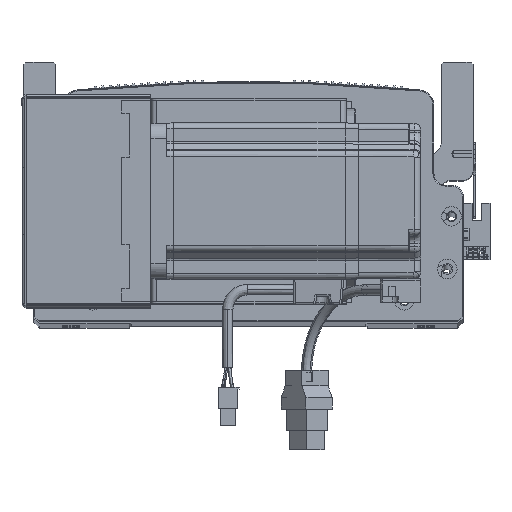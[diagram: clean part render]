
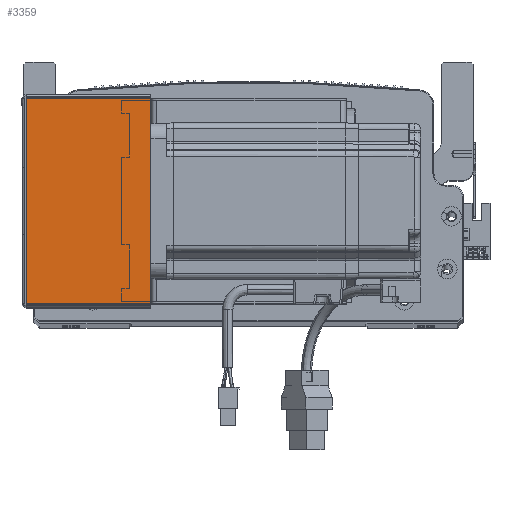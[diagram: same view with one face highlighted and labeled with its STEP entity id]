
A CAD part, top view. The second image highlights one B-rep face of the part: STEP entity #3359.
In plain terms, the highlighted planar face has unit normal (0, 0, 1) as drawn and (0, 0, -1) by its records, which use the part's own axes.
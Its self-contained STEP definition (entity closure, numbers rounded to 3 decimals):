
#3359 = ADVANCED_FACE ( 'NONE', ( #23122 ), #33579, .F. ) ;
#3858 = VECTOR ( 'NONE', #86203, 1000. ) ;
#4445 = ORIENTED_EDGE ( 'NONE', *, *, #70255, .F. ) ;
#6952 = ORIENTED_EDGE ( 'NONE', *, *, #52352, .T. ) ;
#11607 = ORIENTED_EDGE ( 'NONE', *, *, #49383, .F. ) ;
#14345 = CARTESIAN_POINT ( 'NONE',  ( 0., 105.293, -205.5 ) ) ;
#23122 = FACE_OUTER_BOUND ( 'NONE', #74604, .T. ) ;
#26001 = LINE ( 'NONE', #39103, #3858 ) ;
#27104 = DIRECTION ( 'NONE',  ( 0., 0., 1. ) ) ;
#31365 = CARTESIAN_POINT ( 'NONE',  ( 0.737, 0., -205.5 ) ) ;
#33579 = PLANE ( 'NONE',  #84854 ) ;
#36289 = LINE ( 'NONE', #14345, #71071 ) ;
#38147 = VECTOR ( 'NONE', #45231, 1000. ) ;
#39103 = CARTESIAN_POINT ( 'NONE',  ( 64.5, 0., -205.5 ) ) ;
#45231 = DIRECTION ( 'NONE',  ( 0., -1., 0. ) ) ;
#46972 = EDGE_CURVE ( 'NONE', #75787, #80277, #36289, .T. ) ;
#48298 = CARTESIAN_POINT ( 'NONE',  ( 0., 0.707, -205.5 ) ) ;
#48581 = DIRECTION ( 'NONE',  ( 1., 0., 0. ) ) ;
#48745 = CARTESIAN_POINT ( 'NONE',  ( 0.737, 105.293, -205.5 ) ) ;
#49383 = EDGE_CURVE ( 'NONE', #75787, #60621, #51880, .T. ) ;
#50541 = CARTESIAN_POINT ( 'NONE',  ( 0.737, 0.707, -205.5 ) ) ;
#51880 = LINE ( 'NONE', #31365, #38147 ) ;
#52352 = EDGE_CURVE ( 'NONE', #80277, #65178, #26001, .T. ) ;
#53601 = CARTESIAN_POINT ( 'NONE',  ( 0., 0., -205.5 ) ) ;
#53910 = DIRECTION ( 'NONE',  ( 1., 0., 0. ) ) ;
#54851 = CARTESIAN_POINT ( 'NONE',  ( 64.5, 0.707, -205.5 ) ) ;
#60092 = ORIENTED_EDGE ( 'NONE', *, *, #46972, .T. ) ;
#60621 = VERTEX_POINT ( 'NONE', #50541 ) ;
#63134 = VECTOR ( 'NONE', #48581, 1000. ) ;
#65178 = VERTEX_POINT ( 'NONE', #54851 ) ;
#70255 = EDGE_CURVE ( 'NONE', #60621, #65178, #81017, .T. ) ;
#71071 = VECTOR ( 'NONE', #74980, 1000. ) ;
#74604 = EDGE_LOOP ( 'NONE', ( #11607, #60092, #6952, #4445 ) ) ;
#74980 = DIRECTION ( 'NONE',  ( 1., 0., 0. ) ) ;
#75787 = VERTEX_POINT ( 'NONE', #48745 ) ;
#77359 = CARTESIAN_POINT ( 'NONE',  ( 64.5, 105.293, -205.5 ) ) ;
#80277 = VERTEX_POINT ( 'NONE', #77359 ) ;
#81017 = LINE ( 'NONE', #48298, #63134 ) ;
#84854 = AXIS2_PLACEMENT_3D ( 'NONE', #53601, #27104, #53910 ) ;
#86203 = DIRECTION ( 'NONE',  ( 0., -1., 0. ) ) ;
